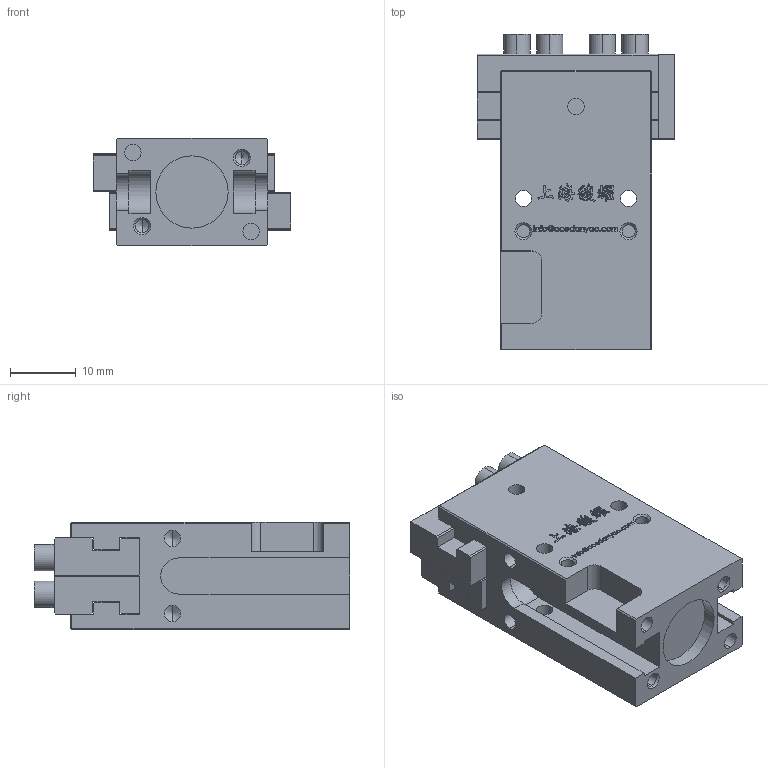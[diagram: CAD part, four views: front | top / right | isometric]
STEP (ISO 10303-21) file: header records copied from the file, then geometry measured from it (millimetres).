
FILE_DESCRIPTION (( 'STEP AP203' ), '1' );
FILE_NAME ('PEP-10-C2-VT-原始檔-組合-W106.04.20.STEP', '2017-04-20T01:46:43', ( 'DanyaoCAD' ), ( '' ), 'SwSTEP 2.0', 'SolidWorks 2016', '' );
FILE_SCHEMA (( 'CONFIG_CONTROL_DESIGN' ));
Length unit declared in the file: millimetre
Products named in the file (3): Griffa; Corpo; PEP-10-C2-VT-原始檔-組合-W106.04.20
Assembly tree (3 placements, depth 2):
  PEP-10-C2-VT-原始檔-組合-W106.04.20
    Griffa  x2
    Corpo
Bounding box: 30 x 48 x 16.4 mm (x, y, z)
Volume: 14336.9 mm3; surface area: 8739 mm2
Topology: 3 solids, 3 shells, 983 faces, 2722 edges, 1790 vertices
Faces by surface type: bspline 640, plane 249, cylinder 66, cone 28
Entity records: 46684 total; most frequent: CARTESIAN_POINT 26435, ORIENTED_EDGE 5246, EDGE_CURVE 2623, DIRECTION 2087, VERTEX_POINT 1738, B_SPLINE_CURVE_WITH_KNOTS 1280, LINE 1227, VECTOR 1227
